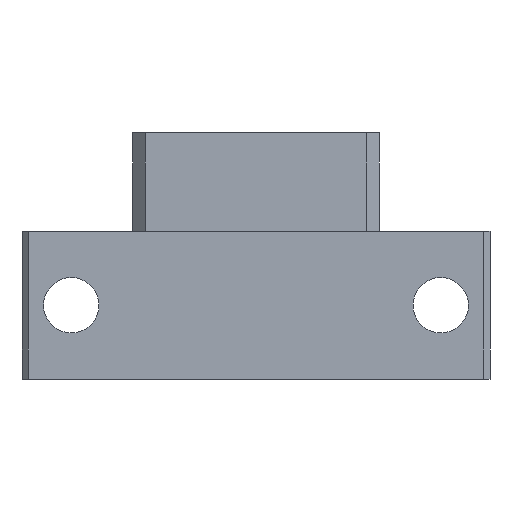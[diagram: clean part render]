
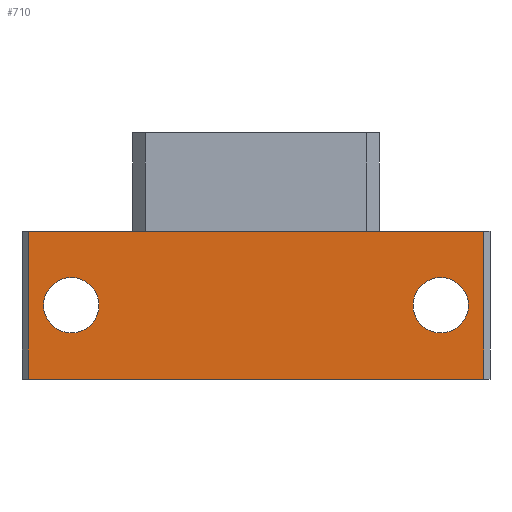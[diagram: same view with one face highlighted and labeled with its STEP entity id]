
A CAD part, front view. The second image highlights one B-rep face of the part: STEP entity #710.
In plain terms, the highlighted planar face has unit normal (0, -1, 0).
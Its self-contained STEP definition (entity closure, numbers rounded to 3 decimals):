
#165 = CARTESIAN_POINT ( 'NONE',  ( -15., -15.5, 8.25 ) ) ;
#176 = CARTESIAN_POINT ( 'NONE',  ( -18.5, -15.5, 12. ) ) ;
#232 = EDGE_CURVE ( 'NONE', #2032, #2427, #2541, .T. ) ;
#392 = DIRECTION ( 'NONE',  ( 0., 0., 1. ) ) ;
#547 = FACE_BOUND ( 'NONE', #2098, .T. ) ;
#590 = PLANE ( 'NONE',  #1794 ) ;
#618 = CARTESIAN_POINT ( 'NONE',  ( -18.5, -15.5, 0. ) ) ;
#666 = EDGE_LOOP ( 'NONE', ( #2641, #3501 ) ) ;
#710 = ADVANCED_FACE ( 'NONE', ( #2823, #547, #2732 ), #590, .F. ) ;
#740 = VECTOR ( 'NONE', #4002, 1000. ) ;
#757 = VECTOR ( 'NONE', #2327, 1000. ) ;
#781 = ORIENTED_EDGE ( 'NONE', *, *, #2749, .T. ) ;
#786 = VERTEX_POINT ( 'NONE', #4275 ) ;
#838 = DIRECTION ( 'NONE',  ( 0., 0., -1. ) ) ;
#882 = ORIENTED_EDGE ( 'NONE', *, *, #232, .F. ) ;
#990 = AXIS2_PLACEMENT_3D ( 'NONE', #2588, #1453, #3985 ) ;
#1059 = DIRECTION ( 'NONE',  ( 1., 0., 0. ) ) ;
#1068 = CIRCLE ( 'NONE', #1677, 2.25 ) ;
#1102 = CARTESIAN_POINT ( 'NONE',  ( -18.5, -15.5, 12. ) ) ;
#1150 = DIRECTION ( 'NONE',  ( 0., 0., 1. ) ) ;
#1249 = CARTESIAN_POINT ( 'NONE',  ( -15., -15.5, 6. ) ) ;
#1318 = DIRECTION ( 'NONE',  ( 0., 0., 1. ) ) ;
#1346 = EDGE_CURVE ( 'NONE', #2841, #2032, #4289, .T. ) ;
#1453 = DIRECTION ( 'NONE',  ( 0., 1., 0. ) ) ;
#1457 = CARTESIAN_POINT ( 'NONE',  ( -18.5, -15.5, 12. ) ) ;
#1582 = ORIENTED_EDGE ( 'NONE', *, *, #1346, .F. ) ;
#1631 = DIRECTION ( 'NONE',  ( 0., 0., 1. ) ) ;
#1664 = CIRCLE ( 'NONE', #3324, 2.25 ) ;
#1677 = AXIS2_PLACEMENT_3D ( 'NONE', #1881, #3992, #392 ) ;
#1712 = VECTOR ( 'NONE', #838, 1000. ) ;
#1794 = AXIS2_PLACEMENT_3D ( 'NONE', #2062, #2081, #1631 ) ;
#1847 = CARTESIAN_POINT ( 'NONE',  ( 15., -15.5, 8.25 ) ) ;
#1881 = CARTESIAN_POINT ( 'NONE',  ( 15., -15.5, 6. ) ) ;
#1931 = CARTESIAN_POINT ( 'NONE',  ( -15., -15.5, 3.75 ) ) ;
#2032 = VERTEX_POINT ( 'NONE', #3811 ) ;
#2062 = CARTESIAN_POINT ( 'NONE',  ( -18.5, -15.5, 12. ) ) ;
#2081 = DIRECTION ( 'NONE',  ( 0., 1., 0. ) ) ;
#2098 = EDGE_LOOP ( 'NONE', ( #781, #2441 ) ) ;
#2119 = CIRCLE ( 'NONE', #4558, 2.25 ) ;
#2163 = VERTEX_POINT ( 'NONE', #618 ) ;
#2190 = CARTESIAN_POINT ( 'NONE',  ( -15., -15.5, 6. ) ) ;
#2327 = DIRECTION ( 'NONE',  ( 0., 0., -1. ) ) ;
#2427 = VERTEX_POINT ( 'NONE', #3684 ) ;
#2441 = ORIENTED_EDGE ( 'NONE', *, *, #3187, .T. ) ;
#2450 = VERTEX_POINT ( 'NONE', #1931 ) ;
#2536 = EDGE_LOOP ( 'NONE', ( #3902, #882, #1582, #3686 ) ) ;
#2541 = LINE ( 'NONE', #3993, #757 ) ;
#2572 = DIRECTION ( 'NONE',  ( 0., -1., 0. ) ) ;
#2582 = CARTESIAN_POINT ( 'NONE',  ( -18.5, -15.5, 0. ) ) ;
#2588 = CARTESIAN_POINT ( 'NONE',  ( 15., -15.5, 6. ) ) ;
#2641 = ORIENTED_EDGE ( 'NONE', *, *, #3031, .F. ) ;
#2732 = FACE_OUTER_BOUND ( 'NONE', #2536, .T. ) ;
#2749 = EDGE_CURVE ( 'NONE', #4389, #786, #1068, .T. ) ;
#2819 = EDGE_CURVE ( 'NONE', #2450, #3866, #1664, .T. ) ;
#2823 = FACE_BOUND ( 'NONE', #666, .T. ) ;
#2841 = VERTEX_POINT ( 'NONE', #1457 ) ;
#3031 = EDGE_CURVE ( 'NONE', #3866, #2450, #2119, .T. ) ;
#3187 = EDGE_CURVE ( 'NONE', #786, #4389, #3787, .T. ) ;
#3324 = AXIS2_PLACEMENT_3D ( 'NONE', #2190, #2572, #1150 ) ;
#3501 = ORIENTED_EDGE ( 'NONE', *, *, #2819, .F. ) ;
#3542 = VECTOR ( 'NONE', #1059, 1000. ) ;
#3682 = EDGE_CURVE ( 'NONE', #2163, #2427, #3733, .T. ) ;
#3684 = CARTESIAN_POINT ( 'NONE',  ( 18.5, -15.5, 0. ) ) ;
#3686 = ORIENTED_EDGE ( 'NONE', *, *, #4643, .T. ) ;
#3733 = LINE ( 'NONE', #2582, #740 ) ;
#3787 = CIRCLE ( 'NONE', #990, 2.25 ) ;
#3811 = CARTESIAN_POINT ( 'NONE',  ( 18.5, -15.5, 12. ) ) ;
#3866 = VERTEX_POINT ( 'NONE', #165 ) ;
#3899 = DIRECTION ( 'NONE',  ( 0., -1., 0. ) ) ;
#3902 = ORIENTED_EDGE ( 'NONE', *, *, #3682, .T. ) ;
#3985 = DIRECTION ( 'NONE',  ( 0., 0., 1. ) ) ;
#3992 = DIRECTION ( 'NONE',  ( 0., 1., 0. ) ) ;
#3993 = CARTESIAN_POINT ( 'NONE',  ( 18.5, -15.5, 12. ) ) ;
#4002 = DIRECTION ( 'NONE',  ( 1., 0., 0. ) ) ;
#4135 = LINE ( 'NONE', #176, #1712 ) ;
#4275 = CARTESIAN_POINT ( 'NONE',  ( 15., -15.5, 3.75 ) ) ;
#4289 = LINE ( 'NONE', #1102, #3542 ) ;
#4389 = VERTEX_POINT ( 'NONE', #1847 ) ;
#4558 = AXIS2_PLACEMENT_3D ( 'NONE', #1249, #3899, #1318 ) ;
#4643 = EDGE_CURVE ( 'NONE', #2841, #2163, #4135, .T. ) ;
